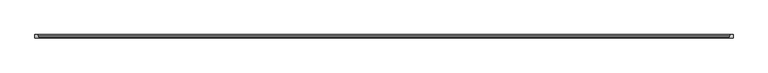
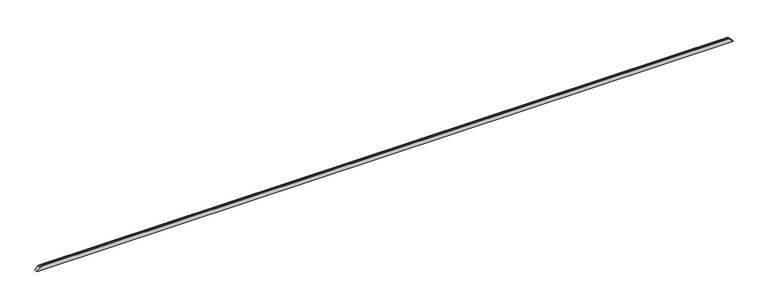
"""IFC4 building model written with IfcOpenShell, lengths in millimetres: proxy geometry, Weiku - Montante - Caixilho 02.2.01.005 : Weiku - Montante - Caixilho 02.2.01.005."""

from ifc_helpers import new_model, si_unit, frame, origin, place, context, project, spatial, ellipse_curve, source, transform, mapped, element, save
from ifc_brep_helpers import plane_surface, cylinder_surface, advanced_brep


def generic_models_840a3bfb(model_context):
    return source(origin(), model_context, "Body", "AdvancedBrep", [
        advanced_brep(
        [(-4916.0, 12.5, 46.0), (-4895.8909676, 12.5, 66.1090324), (4895.8909676, 12.5, 66.1090324), (4916.0, 12.5, 46.0), (-4916.0, 37.8314286, 46.0), (4916.0, 37.8314286, 46.0), (-4913.0, 37.027581, 49.0), (4913.0, 37.027581, 49.0), (-4913.0, 50.0, 49.0), (4913.0, 50.0, 49.0), (4962.0, 50.0, 0.0), (-4962.0, 50.0, 0.0), (4962.0, 0.0, 0.0), (-4962.0, 0.0, 0.0), (4900.4997332, 0.0, 61.5002668), (-4900.4997332, 0.0, 61.5002668), (-4895.118227, 11.4929448, 66.881773), (-4897.6019557, 2.2235429, 64.3980443), (4897.6019557, 2.2235429, 64.3980443), (4895.118227, 11.4929448, 66.881773)],
        [
            (0, 1),
            (1, 2),
            (2, 3),
            (3, 0),
            (4, 0),
            (3, 5),
            (5, 4),
            (6, 4),
            (5, 7),
            (7, 6),
            (8, 6),
            (7, 9),
            (9, 8),
            (10, 11),
            (11, 8),
            (9, 10),
            (10, 12),
            (12, 13),
            (13, 11),
            (12, 14),
            (14, 15),
            (15, 13),
            (16, 17),
            (17, 18),
            (18, 19),
            (19, 16),
            (15, 17, ellipse_curve(frame((-4900.4997332, 3.0, 61.5002668), z_axis=(-0.7071067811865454, 0.0, 0.7071067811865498), x_axis=(-0.7071067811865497, 0.0, -0.7071067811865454)), 4.2426407, 3.0)),
            (16, 1, ellipse_curve(frame((-4895.8909676, 11.7, 66.1090324), z_axis=(-0.7071067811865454, 0.0, 0.7071067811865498), x_axis=(-0.7071067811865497, 0.0, -0.7071067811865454)), 1.1313708, 0.8)),
            (2, 19, ellipse_curve(frame((4895.8909676, 11.7, 66.1090324), z_axis=(0.7071067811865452, 0.0, 0.7071067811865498), x_axis=(-0.7071067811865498, 0.0, 0.7071067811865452)), 1.1313708, 0.8)),
            (18, 14, ellipse_curve(frame((4900.4997332, 3.0, 61.5002668), z_axis=(0.7071067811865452, 0.0, 0.7071067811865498), x_axis=(-0.7071067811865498, 0.0, 0.7071067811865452)), 4.2426407, 3.0)),
        ],
        [
            plane_surface(frame((-4962.0, 12.5, 66.1090324), z_axis=(0.0, 1.0, 0.0), x_axis=(1.0, 0.0, 0.0))),
            plane_surface(frame((-4962.0, 12.5, 46.0), z_axis=(0.0, 0.0, 1.0), x_axis=(1.0, 0.0, 0.0))),
            plane_surface(frame((-4962.0, 37.8314286, 46.0), z_axis=(0.0, -0.9659258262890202, -0.2588190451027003), x_axis=(1.0, 0.0, 0.0))),
            plane_surface(frame((-4962.0, 37.027581, 49.0), z_axis=(0.0, 0.0, 1.0), x_axis=(1.0, 0.0, 0.0))),
            plane_surface(frame((-4962.0, 50.0, 49.0), z_axis=(0.0, 1.0, 0.0), x_axis=(1.0, 0.0, 0.0))),
            plane_surface(frame((-4962.0, 50.0, 0.0), z_axis=(0.0, 0.0, -1.0), x_axis=(1.0, 0.0, 0.0))),
            plane_surface(frame((-4962.0, 0.0, 0.0), z_axis=(0.0, -1.0, 0.0), x_axis=(1.0, 0.0, 0.0))),
            plane_surface(frame((-4962.0, 2.2235429, 64.3980443), z_axis=(0.0, -0.2588190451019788, 0.9659258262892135), x_axis=(1.0, 0.0, 0.0))),
            plane_surface(frame((-5032.0, -15.0, -70.0), z_axis=(-0.7071067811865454, 0.0, 0.7071067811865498), x_axis=(0.0, 1.0, 0.0))),
            plane_surface(frame((4892.0, -15.0, 70.0), z_axis=(0.7071067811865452, 0.0, 0.7071067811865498), x_axis=(0.0, 1.0, 0.0))),
            cylinder_surface(frame((-4962.0, 11.7, 66.1090324), z_axis=(-1.0, 0.0, 0.0), x_axis=(0.0, 1.0, 0.0)), 0.8),
            cylinder_surface(frame((-4962.0, 3.0, 61.5002668), z_axis=(-1.0, 0.0, 0.0), x_axis=(0.0, 1.0, 0.0)), 3.0),
        ],
        [
            (0, [[1, 2, 3, 4]]),
            (1, [[5, -4, 6, 7]]),
            (2, [[8, -7, 9, 10]]),
            (3, [[11, -10, 12, 13]]),
            (4, [[14, 15, -13, 16]]),
            (5, [[-14, 17, 18, 19]]),
            (6, [[-18, 20, 21, 22]]),
            (7, [[23, 24, 25, 26]]),
            (8, [[-1, -5, -8, -11, -15, -19, -22, 27, -23, 28]]),
            (9, [[-3, 29, -25, 30, -20, -17, -16, -12, -9, -6]]),
            (10, [[-28, -26, -29, -2]]),
            (11, [[-27, -21, -30, -24]]),
        ],
    ),
    ])


if __name__ == "__main__":
    model = new_model("IFC4")
    model_context = context("Model", 3, world=origin())
    ifc_project = project(units=[si_unit("LENGTHUNIT", "METRE", prefix="MILLI")], contexts=[model_context])
    site = spatial("IfcSite", under=ifc_project)
    building = spatial("IfcBuilding", under=site)
    placement = place(None, origin())
    generic_models_shape = generic_models_840a3bfb(model_context)
    element("IfcBuildingElementProxy", 1, Name="Weiku - Montante - Caixilho 02.2.01.005 : Weiku - Montante - Caixilho 02.2.01.005", ObjectType="Weiku - Montante - Caixilho 02.2.01.005 : Weiku - Montante - Caixilho 02.2.01.005", at=placement, inside=building, context=model_context, shape_type="MappedRepresentation", body=[
        mapped(generic_models_shape, transform((0.0, 0.0, 0.0), x_axis=(1.0, 0.0, 0.0), y_axis=(0.0, 1.0, 0.0), z_axis=(0.0, 0.0, 1.0))),
    ])
    save(model, "model.ifc")
